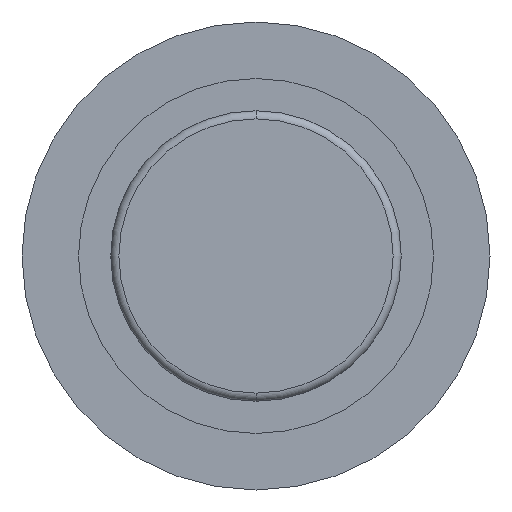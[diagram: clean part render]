
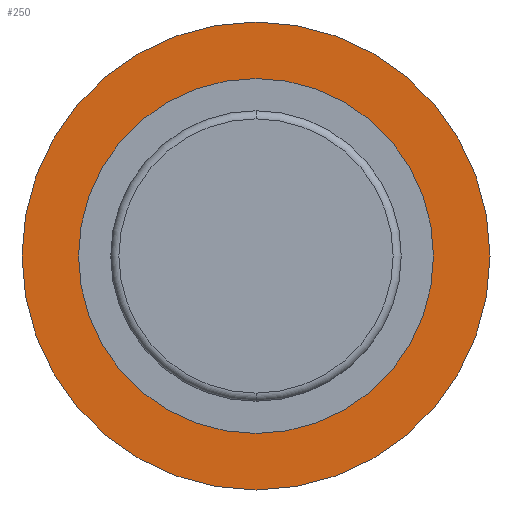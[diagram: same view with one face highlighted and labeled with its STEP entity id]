
A CAD part, front view. The second image highlights one B-rep face of the part: STEP entity #250.
In plain terms, the highlighted planar face has unit normal (0, -1, 0).
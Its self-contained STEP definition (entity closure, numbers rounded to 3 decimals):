
#19=CARTESIAN_POINT('',(0.,4.4,0.));
#20=DIRECTION('',(0.,1.,0.));
#21=DIRECTION('',(0.,0.,-1.));
#22=AXIS2_PLACEMENT_3D('',#19,#20,#21);
#24=CARTESIAN_POINT('',(0.,4.4,0.));
#25=DIRECTION('',(0.,-1.,0.));
#26=DIRECTION('',(0.,0.,-1.));
#27=AXIS2_PLACEMENT_3D('',#24,#25,#26);
#29=CARTESIAN_POINT('',(0.,4.4,0.));
#30=DIRECTION('',(0.,-1.,0.));
#31=DIRECTION('',(0.,0.,-1.));
#32=AXIS2_PLACEMENT_3D('',#29,#30,#31);
#42=CARTESIAN_POINT('',(0.,4.4,0.));
#43=DIRECTION('',(0.,1.,0.));
#44=DIRECTION('',(0.,0.,-1.));
#45=AXIS2_PLACEMENT_3D('',#42,#43,#44);
#164=CARTESIAN_POINT('',(0.,4.4,-1.1));
#166=VERTEX_POINT('',#164);
#167=CARTESIAN_POINT('',(0.,4.4,-1.45));
#169=VERTEX_POINT('',#167);
#186=CARTESIAN_POINT('',(0.,4.4,1.1));
#188=VERTEX_POINT('',#186);
#189=CARTESIAN_POINT('',(0.,4.4,1.45));
#191=VERTEX_POINT('',#189);
#235=CARTESIAN_POINT('',(0.,4.4,0.));
#236=DIRECTION('',(0.,-1.,0.));
#237=DIRECTION('',(0.,0.,1.));
#238=AXIS2_PLACEMENT_3D('',#235,#236,#237);
#239=PLANE('',#238);
#241=ORIENTED_EDGE('',*,*,#240,.F.);
#243=ORIENTED_EDGE('',*,*,#242,.T.);
#244=EDGE_LOOP('',(#241,#243));
#245=FACE_OUTER_BOUND('',#244,.F.);
#246=ORIENTED_EDGE('',*,*,#227,.F.);
#247=ORIENTED_EDGE('',*,*,#216,.T.);
#248=EDGE_LOOP('',(#246,#247));
#249=FACE_BOUND('',#248,.F.);
#250=ADVANCED_FACE('',(#245,#249),#239,.T.);
#23=CIRCLE('',#22,1.1);
#28=CIRCLE('',#27,1.1);
#33=CIRCLE('',#32,1.45);
#46=CIRCLE('',#45,1.45);
#216=EDGE_CURVE('',#166,#188,#28,.T.);
#227=EDGE_CURVE('',#166,#188,#23,.T.);
#240=EDGE_CURVE('',#169,#191,#33,.T.);
#242=EDGE_CURVE('',#169,#191,#46,.T.);
